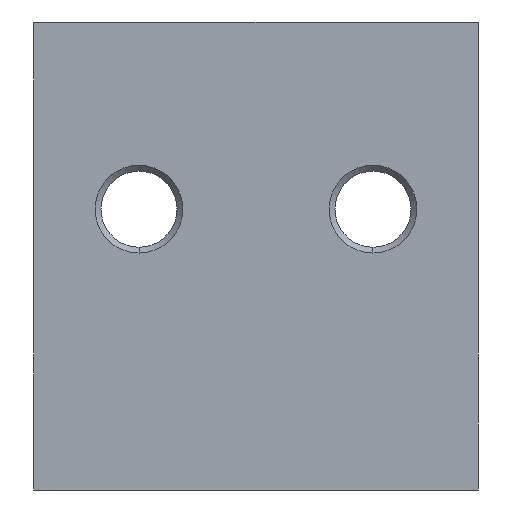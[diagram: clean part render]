
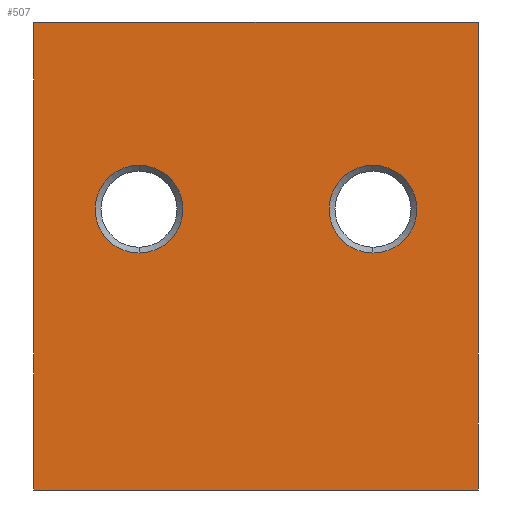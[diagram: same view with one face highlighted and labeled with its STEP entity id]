
A CAD part, front view. The second image highlights one B-rep face of the part: STEP entity #507.
In plain terms, the highlighted planar face has unit normal (0, -1, 0).
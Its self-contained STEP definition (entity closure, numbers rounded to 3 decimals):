
#6 = CARTESIAN_POINT ( 'NONE',  ( -19., 0., 20. ) ) ;
#12 = AXIS2_PLACEMENT_3D ( 'NONE', #1168, #556, #1277 ) ;
#54 = VERTEX_POINT ( 'NONE', #1074 ) ;
#62 = PLANE ( 'NONE',  #782 ) ;
#72 = FACE_BOUND ( 'NONE', #1162, .T. ) ;
#75 = CARTESIAN_POINT ( 'NONE',  ( 19., 0., 20. ) ) ;
#86 = LINE ( 'NONE', #299, #880 ) ;
#91 = DIRECTION ( 'NONE',  ( 0., 0., 1. ) ) ;
#97 = AXIS2_PLACEMENT_3D ( 'NONE', #860, #241, #966 ) ;
#113 = CARTESIAN_POINT ( 'NONE',  ( 10., 0., 0.25 ) ) ;
#156 = DIRECTION ( 'NONE',  ( 0., 1., 0. ) ) ;
#162 = VECTOR ( 'NONE', #379, 1000. ) ;
#218 = VERTEX_POINT ( 'NONE', #1058 ) ;
#219 = CIRCLE ( 'NONE', #1246, 3.75 ) ;
#225 = EDGE_CURVE ( 'NONE', #849, #227, #219, .T. ) ;
#227 = VERTEX_POINT ( 'NONE', #934 ) ;
#241 = DIRECTION ( 'NONE',  ( 0., 1., 0. ) ) ;
#299 = CARTESIAN_POINT ( 'NONE',  ( -19., 0., -20. ) ) ;
#354 = EDGE_CURVE ( 'NONE', #1121, #834, #86, .T. ) ;
#356 = ORIENTED_EDGE ( 'NONE', *, *, #819, .F. ) ;
#370 = LINE ( 'NONE', #457, #1227 ) ;
#378 = CIRCLE ( 'NONE', #12, 3.75 ) ;
#379 = DIRECTION ( 'NONE',  ( 1., 0., 0. ) ) ;
#388 = FACE_BOUND ( 'NONE', #802, .T. ) ;
#417 = CARTESIAN_POINT ( 'NONE',  ( 10., 0., 4. ) ) ;
#438 = FACE_OUTER_BOUND ( 'NONE', #944, .T. ) ;
#457 = CARTESIAN_POINT ( 'NONE',  ( 19., 0., -20. ) ) ;
#465 = ORIENTED_EDGE ( 'NONE', *, *, #1250, .F. ) ;
#507 = ADVANCED_FACE ( 'NONE', ( #72, #388, #438 ), #62, .F. ) ;
#524 = DIRECTION ( 'NONE',  ( 0., 0., 1. ) ) ;
#526 = ORIENTED_EDGE ( 'NONE', *, *, #1122, .T. ) ;
#556 = DIRECTION ( 'NONE',  ( 0., 1., 0. ) ) ;
#564 = EDGE_CURVE ( 'NONE', #1303, #54, #370, .T. ) ;
#567 = DIRECTION ( 'NONE',  ( 0., 0., -1. ) ) ;
#572 = ORIENTED_EDGE ( 'NONE', *, *, #564, .F. ) ;
#598 = ORIENTED_EDGE ( 'NONE', *, *, #225, .T. ) ;
#603 = DIRECTION ( 'NONE',  ( 0., 1., 0. ) ) ;
#628 = EDGE_CURVE ( 'NONE', #227, #849, #1345, .T. ) ;
#656 = ORIENTED_EDGE ( 'NONE', *, *, #354, .F. ) ;
#698 = ORIENTED_EDGE ( 'NONE', *, *, #628, .T. ) ;
#705 = DIRECTION ( 'NONE',  ( -1., 0., 0. ) ) ;
#718 = LINE ( 'NONE', #1001, #162 ) ;
#782 = AXIS2_PLACEMENT_3D ( 'NONE', #783, #156, #876 ) ;
#783 = CARTESIAN_POINT ( 'NONE',  ( 0., 0., 0. ) ) ;
#790 = VECTOR ( 'NONE', #705, 1000. ) ;
#802 = EDGE_LOOP ( 'NONE', ( #526, #1226 ) ) ;
#819 = EDGE_CURVE ( 'NONE', #54, #1121, #1338, .T. ) ;
#834 = VERTEX_POINT ( 'NONE', #6 ) ;
#849 = VERTEX_POINT ( 'NONE', #113 ) ;
#860 = CARTESIAN_POINT ( 'NONE',  ( -10., 0., 4. ) ) ;
#872 = VERTEX_POINT ( 'NONE', #1149 ) ;
#876 = DIRECTION ( 'NONE',  ( 0., 0., 1. ) ) ;
#880 = VECTOR ( 'NONE', #91, 1000. ) ;
#900 = EDGE_CURVE ( 'NONE', #218, #872, #958, .T. ) ;
#934 = CARTESIAN_POINT ( 'NONE',  ( 10., 0., 7.75 ) ) ;
#944 = EDGE_LOOP ( 'NONE', ( #572, #465, #656, #356 ) ) ;
#958 = CIRCLE ( 'NONE', #97, 3.75 ) ;
#966 = DIRECTION ( 'NONE',  ( 0., 0., 1. ) ) ;
#1001 = CARTESIAN_POINT ( 'NONE',  ( -19., 0., 20. ) ) ;
#1058 = CARTESIAN_POINT ( 'NONE',  ( -10., 0., 7.75 ) ) ;
#1074 = CARTESIAN_POINT ( 'NONE',  ( 19., 0., -20. ) ) ;
#1121 = VERTEX_POINT ( 'NONE', #1164 ) ;
#1122 = EDGE_CURVE ( 'NONE', #872, #218, #378, .T. ) ;
#1138 = DIRECTION ( 'NONE',  ( 0., 1., 0. ) ) ;
#1149 = CARTESIAN_POINT ( 'NONE',  ( -10., 0., 0.25 ) ) ;
#1162 = EDGE_LOOP ( 'NONE', ( #598, #698 ) ) ;
#1164 = CARTESIAN_POINT ( 'NONE',  ( -19., 0., -20. ) ) ;
#1168 = CARTESIAN_POINT ( 'NONE',  ( -10., 0., 4. ) ) ;
#1191 = AXIS2_PLACEMENT_3D ( 'NONE', #1213, #603, #1325 ) ;
#1213 = CARTESIAN_POINT ( 'NONE',  ( 10., 0., 4. ) ) ;
#1226 = ORIENTED_EDGE ( 'NONE', *, *, #900, .T. ) ;
#1227 = VECTOR ( 'NONE', #567, 1000. ) ;
#1246 = AXIS2_PLACEMENT_3D ( 'NONE', #417, #1138, #524 ) ;
#1250 = EDGE_CURVE ( 'NONE', #834, #1303, #718, .T. ) ;
#1277 = DIRECTION ( 'NONE',  ( 0., 0., 1. ) ) ;
#1303 = VERTEX_POINT ( 'NONE', #75 ) ;
#1315 = CARTESIAN_POINT ( 'NONE',  ( -19., 0., -20. ) ) ;
#1325 = DIRECTION ( 'NONE',  ( 0., 0., 1. ) ) ;
#1338 = LINE ( 'NONE', #1315, #790 ) ;
#1345 = CIRCLE ( 'NONE', #1191, 3.75 ) ;
